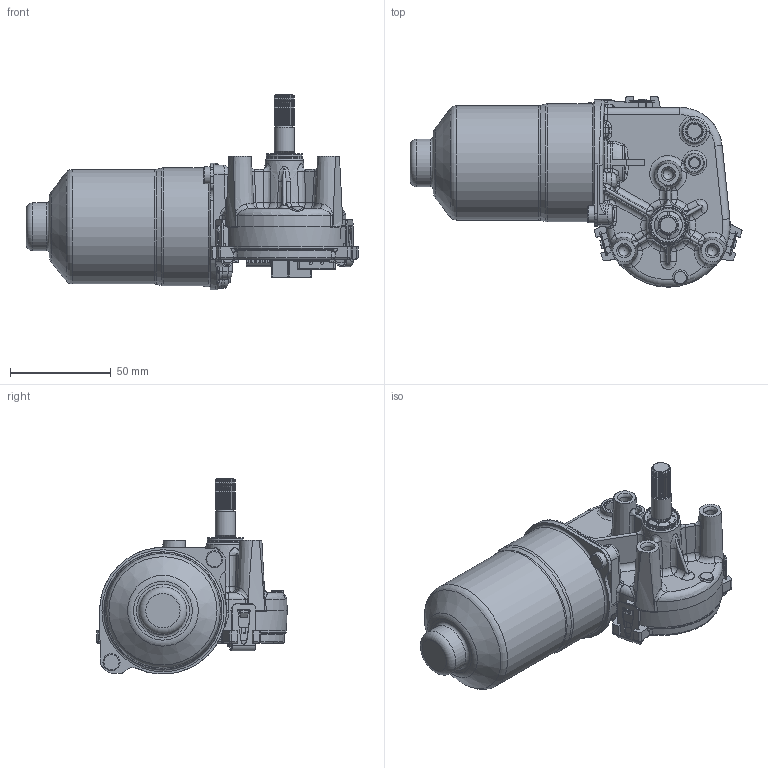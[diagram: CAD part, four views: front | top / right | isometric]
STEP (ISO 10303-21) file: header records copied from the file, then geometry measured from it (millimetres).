
FILE_DESCRIPTION( ( 'Unknown' ), '1' );
FILE_NAME( 'D:/vikranth/MKD/output/final/F006B20411.stp', 'Unknown', ( 'Unknown' ), ( 'Unknown' ), 'PSStep 15.0.49', 'Unknown', ' ' );
FILE_SCHEMA( ( 'AUTOMOTIVE_DESIGN { 1 0 10303 214 1 1 1 1 }' ) );
Length unit declared in the file: millimetre
Products named in the file (1): 1
Bounding box: 165.11 x 94.7 x 97.41 mm (x, y, z)
Surface area: 54063.1 mm2 (no closed solid volume)
Topology: 0 solids, 1958 shells, 1959 faces, 10877 edges, 10730 vertices
Faces by surface type: plane 864, cylinder 539, bspline 225, torus 207, cone 88, sphere 36
Full cylindrical faces by diameter (mm): 1.6 x2, 3.9 x1, 5 x3, 6 x1, 7 x1, 8.5 x2, 9 x1, 9.59 x2, 10 x4, 17.3 x1, 17.8 x2, 18 x1, 23.7 x1, 56.9 x1, 58.7 x1
Entity records: 155388 total; most frequent: CARTESIAN_POINT 64813, DIRECTION 14144, VERTEX_POINT 10698, ORIENTED_EDGE 10688, EDGE_CURVE 10688, LINE 5488, VECTOR 5488, AXIS2_PLACEMENT_3D 4328
